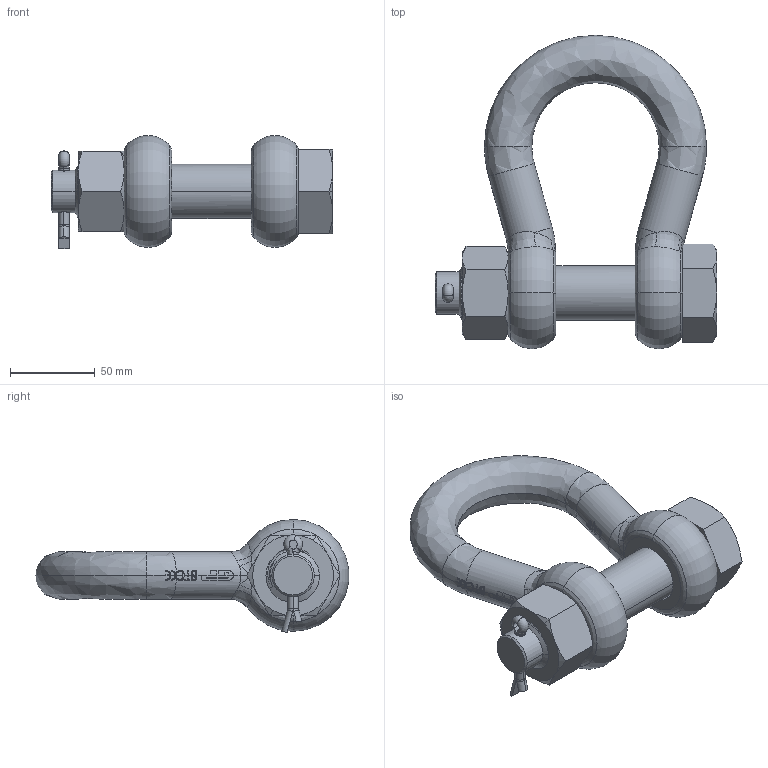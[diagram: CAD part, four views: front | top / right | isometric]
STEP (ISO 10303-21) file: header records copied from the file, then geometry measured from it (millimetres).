
FILE_DESCRIPTION (( 'STEP AP203' ), '1' );
FILE_NAME ('SUGHMB28.STEP', '2009-08-26T14:08:28', ( '.' ), ( '.' ), 'SwSTEP 2.0', 'SolidWorks 2009', '' );
FILE_SCHEMA (( 'CONFIG_CONTROL_DESIGN' ));
Length unit declared in the file: millimetre
Products named in the file (5): 15_3; SUGHMB28; 15; 15_1; 15_2
Assembly tree (4 placements, depth 2):
  SUGHMB28
    15_3
    15
    15_2
    15_1
Bounding box: 166 x 184.75 x 66.69 mm (x, y, z)
Volume: 475189.8 mm3; surface area: 83926.5 mm2
Topology: 4 solids, 4 shells, 749 faces, 2068 edges, 1346 vertices
Faces by surface type: bspline 314, plane 276, cylinder 121, cone 28, torus 10
Entity records: 40635 total; most frequent: CARTESIAN_POINT 23954, ORIENTED_EDGE 4120, DIRECTION 2174, EDGE_CURVE 2060, VERTEX_POINT 1346, VECTOR 940, LINE 940, EDGE_LOOP 784
